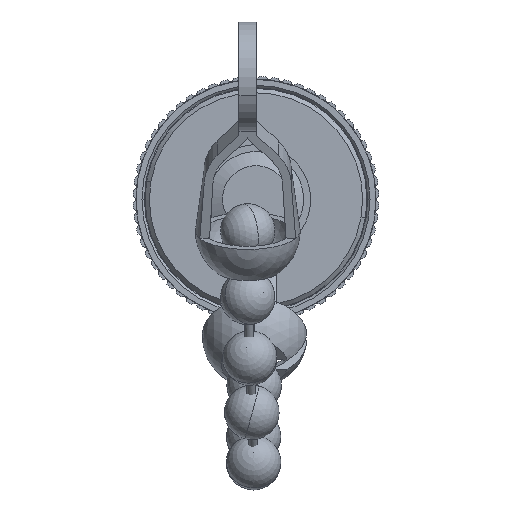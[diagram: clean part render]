
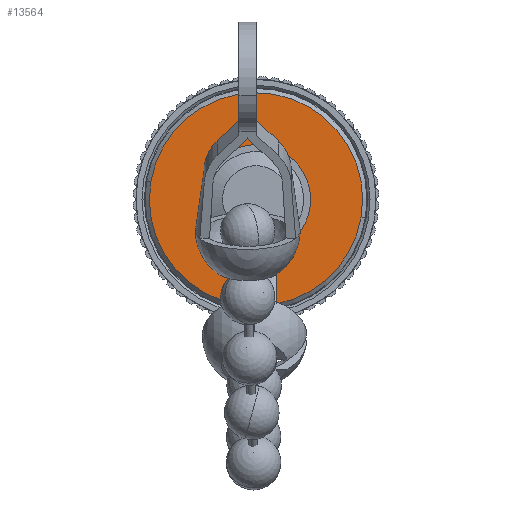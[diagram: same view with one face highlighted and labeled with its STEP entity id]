
A CAD part, top view. The second image highlights one B-rep face of the part: STEP entity #13564.
In plain terms, the highlighted planar face has unit normal (0, 0, 1).
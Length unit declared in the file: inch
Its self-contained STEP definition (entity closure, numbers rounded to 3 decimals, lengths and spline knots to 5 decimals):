
#13 = FACE_BOUND ( 'NONE', #8763, .T. ) ;
#676 = CARTESIAN_POINT ( 'NONE',  ( 0., 0., 0.551 ) ) ;
#1086 = CARTESIAN_POINT ( 'NONE',  ( -0.04735, 0.0079, 0.551 ) ) ;
#1583 = DIRECTION ( 'NONE',  ( 0., 0., -1. ) ) ;
#2640 = AXIS2_PLACEMENT_3D ( 'NONE', #6862, #1583, #11003 ) ;
#3045 = ORIENTED_EDGE ( 'NONE', *, *, #6208, .T. ) ;
#4071 = CIRCLE ( 'NONE', #16955, 0.048 ) ;
#4384 = DIRECTION ( 'NONE',  ( -0.986, 0.165, 0. ) ) ;
#4385 = VERTEX_POINT ( 'NONE', #14168 ) ;
#5809 = EDGE_CURVE ( 'NONE', #12289, #4385, #10628, .T. ) ;
#5863 = VERTEX_POINT ( 'NONE', #9663 ) ;
#6208 = EDGE_CURVE ( 'NONE', #5863, #12331, #17227, .T. ) ;
#6550 = PLANE ( 'NONE',  #12262 ) ;
#6853 = DIRECTION ( 'NONE',  ( 0., 0., -1. ) ) ;
#6862 = CARTESIAN_POINT ( 'NONE',  ( 0., 0., 0.551 ) ) ;
#7775 = CIRCLE ( 'NONE', #12355, 0.244 ) ;
#8763 = EDGE_LOOP ( 'NONE', ( #15069, #3045 ) ) ;
#8817 = DIRECTION ( 'NONE',  ( -0.986, 0.165, 0. ) ) ;
#8993 = EDGE_CURVE ( 'NONE', #12331, #5863, #4071, .T. ) ;
#9663 = CARTESIAN_POINT ( 'NONE',  ( 0.04735, -0.0079, 0.551 ) ) ;
#10628 = CIRCLE ( 'NONE', #13194, 0.244 ) ;
#10803 = CARTESIAN_POINT ( 'NONE',  ( 0., 0., 0.551 ) ) ;
#11003 = DIRECTION ( 'NONE',  ( -0.986, 0.165, 0. ) ) ;
#11595 = DIRECTION ( 'NONE',  ( 0., 0., 1. ) ) ;
#11832 = ORIENTED_EDGE ( 'NONE', *, *, #5809, .T. ) ;
#11834 = EDGE_CURVE ( 'NONE', #4385, #12289, #7775, .T. ) ;
#12120 = DIRECTION ( 'NONE',  ( -0.986, 0.165, 0. ) ) ;
#12262 = AXIS2_PLACEMENT_3D ( 'NONE', #14990, #16416, #12120 ) ;
#12289 = VERTEX_POINT ( 'NONE', #17651 ) ;
#12331 = VERTEX_POINT ( 'NONE', #1086 ) ;
#12355 = AXIS2_PLACEMENT_3D ( 'NONE', #676, #11595, #8817 ) ;
#12446 = DIRECTION ( 'NONE',  ( 0., 0., 1. ) ) ;
#13194 = AXIS2_PLACEMENT_3D ( 'NONE', #15235, #12446, #4384 ) ;
#13214 = ORIENTED_EDGE ( 'NONE', *, *, #11834, .T. ) ;
#13564 = ADVANCED_FACE ( 'NONE', ( #14900, #13 ), #6550, .F. ) ;
#14168 = CARTESIAN_POINT ( 'NONE',  ( -0.24068, 0.04014, 0.551 ) ) ;
#14234 = EDGE_LOOP ( 'NONE', ( #13214, #11832 ) ) ;
#14844 = DIRECTION ( 'NONE',  ( -0.986, 0.165, 0. ) ) ;
#14900 = FACE_OUTER_BOUND ( 'NONE', #14234, .T. ) ;
#14990 = CARTESIAN_POINT ( 'NONE',  ( 0.04179, 0.25054, 0.551 ) ) ;
#15069 = ORIENTED_EDGE ( 'NONE', *, *, #8993, .T. ) ;
#15235 = CARTESIAN_POINT ( 'NONE',  ( 0., 0., 0.551 ) ) ;
#16416 = DIRECTION ( 'NONE',  ( 0., 0., -1. ) ) ;
#16955 = AXIS2_PLACEMENT_3D ( 'NONE', #10803, #6853, #14844 ) ;
#17227 = CIRCLE ( 'NONE', #2640, 0.048 ) ;
#17651 = CARTESIAN_POINT ( 'NONE',  ( 0.24068, -0.04014, 0.551 ) ) ;
